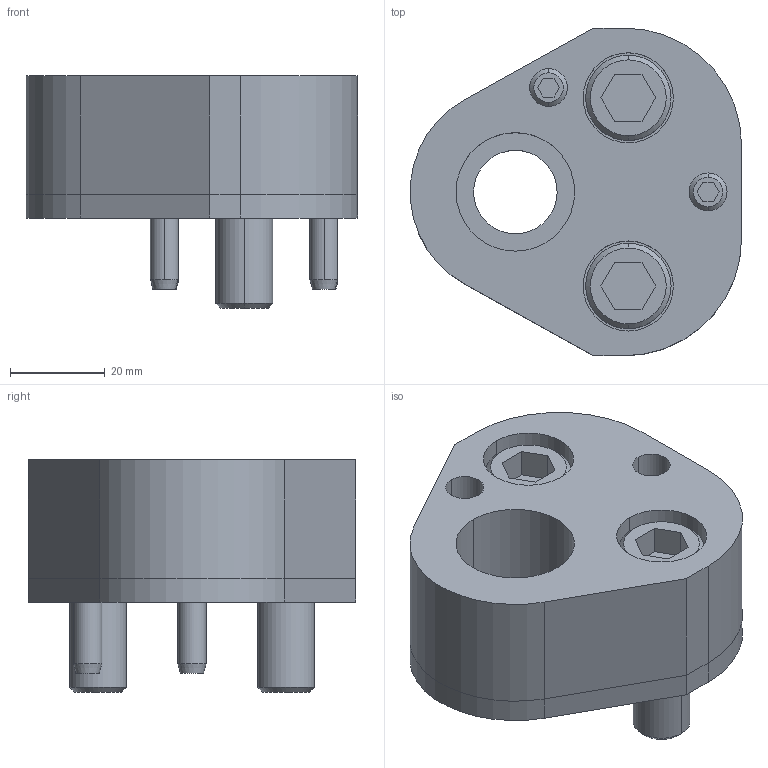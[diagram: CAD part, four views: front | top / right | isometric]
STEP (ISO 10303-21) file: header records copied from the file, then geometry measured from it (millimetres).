
FILE_DESCRIPTION(/* description */ (''),/* implementation_level */ '2;1');
FILE_NAME(/* name */ '3d_25crn-ad25_03125_r00.stp',/* time_stamp */ '2011-01-10T14:17:55+09:00',/* author */ ('MISUMI'),/* organization */ (''),/* preprocessor_version */ 'ST-DEVELOPER v11',/* originating_system */ 'UGS - NX 5.0',/* authorisation */ '');
FILE_SCHEMA (('CONFIG_CONTROL_DESIGN'));
Length unit declared in the file: millimetre
Products named in the file (1): 3d_25crn-ad25_03125_r00
Bounding box: 69.83 x 69.1 x 49 mm (x, y, z)
Volume: 96350 mm3; surface area: 32470 mm2
Topology: 8 solids, 8 shells, 155 faces, 348 edges, 224 vertices
Faces by surface type: plane 67, cylinder 62, cone 26
Entity records: 4494 total; most frequent: DIRECTION 804, CARTESIAN_POINT 782, ORIENTED_EDGE 696, EDGE_CURVE 348, AXIS2_PLACEMENT_3D 306, VERTEX_POINT 224, LINE 192, VECTOR 192
